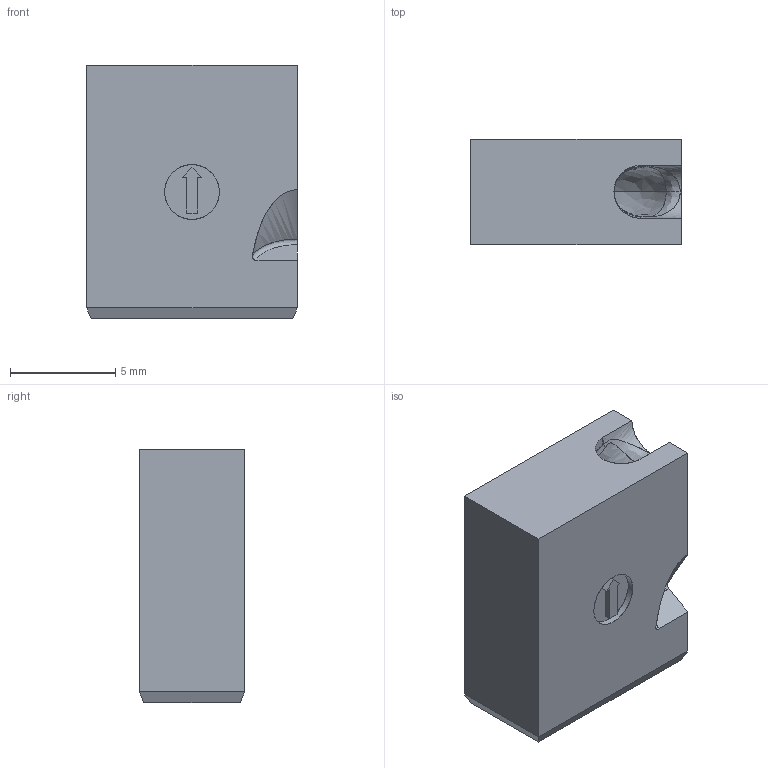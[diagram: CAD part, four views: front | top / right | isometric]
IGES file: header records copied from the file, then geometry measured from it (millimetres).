
Start section: VISI Layer Mapping Iges    VISI  0      0  1      WARNINGS
Global section: file name: G:\Produktkommunikation\Support\CD-Online-Katalog\3D Daten Produkte\E1680_85_90_92_95\E1692_10.igs; native system: VISI 16.0; preprocessor: 2.0; author: PUM; organization: Unknown; date: 20110119.165800; units: millimetre
Bounding box: 10 x 5 x 12 mm (x, y, z)
Surface area: 655.2 mm2 (no closed solid volume)
Topology: 0 solids, 0 shells, 83 faces, 659 edges, 643 vertices
Faces by surface type: bspline 83
